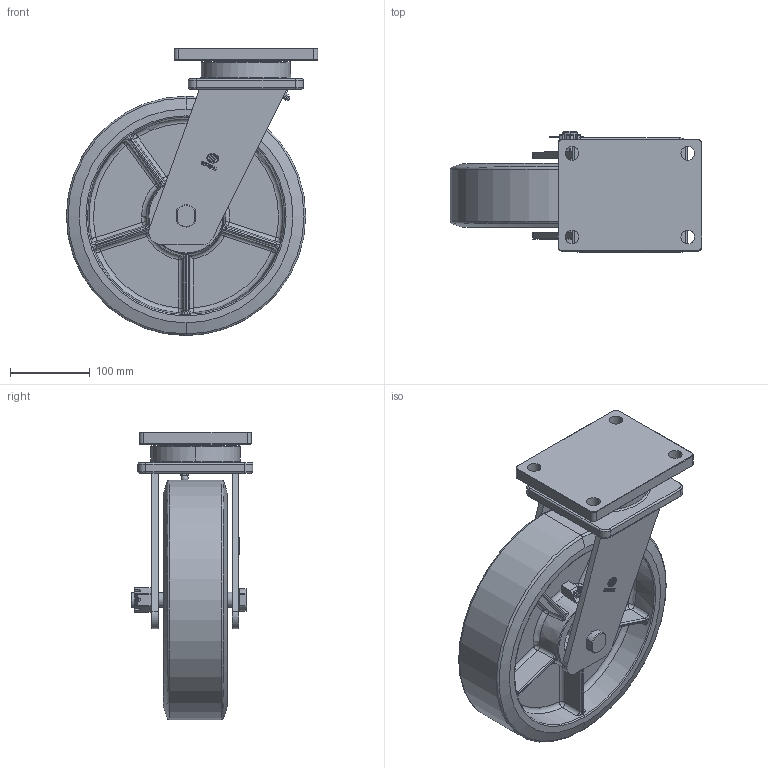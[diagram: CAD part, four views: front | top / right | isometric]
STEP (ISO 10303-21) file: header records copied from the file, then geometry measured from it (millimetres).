
FILE_DESCRIPTION(/* description */ (''),/* implementation_level */ '2;1');
FILE_NAME(/* name */ '40A19_12_F.stp',/* time_stamp */ '2022-08-29T10:03:48+08:00',/* author */ (''),/* organization */ (''),/* preprocessor_version */ 'ST-DEVELOPER v14',/* originating_system */ 'SIEMENS PLM Software NX 8.0',/* authorisation */ '');
FILE_SCHEMA (('AUTOMOTIVE_DESIGN { 1 0 10303 214 3 1 1 1 }'));
Length unit declared in the file: millimetre
Products named in the file (1): 40A19_12_F
Bounding box: 315 x 152.5 x 360 mm (x, y, z)
Volume: 3838085 mm3; surface area: 522397.6 mm2
Topology: 1 solids, 2 shells, 741 faces, 1907 edges, 1160 vertices
Faces by surface type: plane 317, cylinder 218, torus 59, bspline 57, sphere 46, cone 40, revolution 4
Entity records: 26431 total; most frequent: CARTESIAN_POINT 9727, ORIENTED_EDGE 3710, DIRECTION 3160, EDGE_CURVE 1855, AXIS2_PLACEMENT_3D 1234, VERTEX_POINT 1160, EDGE_LOOP 799, ADVANCED_FACE 741
